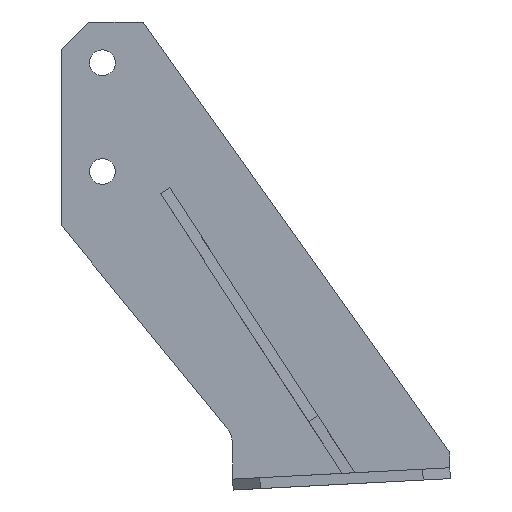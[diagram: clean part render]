
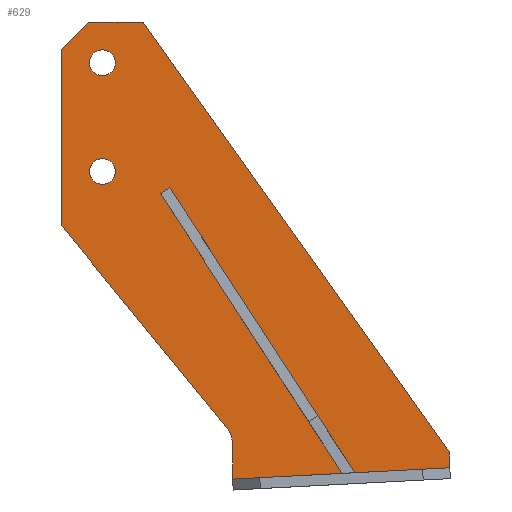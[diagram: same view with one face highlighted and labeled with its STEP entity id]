
A CAD part, front view. The second image highlights one B-rep face of the part: STEP entity #629.
In plain terms, the highlighted planar face has unit normal (0, -1, 0).
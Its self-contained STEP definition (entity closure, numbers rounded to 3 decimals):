
#114=FACE_BOUND('',#189,.T.);
#115=FACE_BOUND('',#190,.T.);
#130=PLANE('',#690);
#158=FACE_OUTER_BOUND('',#188,.T.);
#188=EDGE_LOOP('',(#513,#514,#515,#516,#517,#518,#519,#520,#521));
#189=EDGE_LOOP('',(#522));
#190=EDGE_LOOP('',(#523));
#219=LINE('',#884,#281);
#222=LINE('',#899,#284);
#225=LINE('',#905,#287);
#228=LINE('',#911,#290);
#231=LINE('',#917,#293);
#234=LINE('',#923,#296);
#237=LINE('',#929,#299);
#240=LINE('',#934,#302);
#281=VECTOR('',#731,10.);
#284=VECTOR('',#748,10.);
#287=VECTOR('',#753,10.);
#290=VECTOR('',#758,10.);
#293=VECTOR('',#763,10.);
#296=VECTOR('',#768,10.);
#299=VECTOR('',#773,10.);
#302=VECTOR('',#778,10.);
#340=CIRCLE('',#675,10.);
#341=CIRCLE('',#678,4.75);
#343=CIRCLE('',#681,4.75);
#351=VERTEX_POINT('',#874);
#352=VERTEX_POINT('',#876);
#354=VERTEX_POINT('',#882);
#355=VERTEX_POINT('',#886);
#357=VERTEX_POINT('',#892);
#359=VERTEX_POINT('',#898);
#361=VERTEX_POINT('',#904);
#363=VERTEX_POINT('',#910);
#365=VERTEX_POINT('',#916);
#367=VERTEX_POINT('',#922);
#369=VERTEX_POINT('',#928);
#399=EDGE_CURVE('',#351,#352,#340,.T.);
#403=EDGE_CURVE('',#354,#351,#219,.T.);
#404=EDGE_CURVE('',#355,#355,#341,.T.);
#407=EDGE_CURVE('',#357,#357,#343,.T.);
#410=EDGE_CURVE('',#352,#359,#222,.T.);
#413=EDGE_CURVE('',#359,#361,#225,.T.);
#416=EDGE_CURVE('',#361,#363,#228,.T.);
#419=EDGE_CURVE('',#363,#365,#231,.T.);
#422=EDGE_CURVE('',#365,#367,#234,.T.);
#425=EDGE_CURVE('',#367,#369,#237,.T.);
#428=EDGE_CURVE('',#369,#354,#240,.T.);
#513=ORIENTED_EDGE('',*,*,#403,.F.);
#514=ORIENTED_EDGE('',*,*,#428,.F.);
#515=ORIENTED_EDGE('',*,*,#425,.F.);
#516=ORIENTED_EDGE('',*,*,#422,.F.);
#517=ORIENTED_EDGE('',*,*,#419,.F.);
#518=ORIENTED_EDGE('',*,*,#416,.F.);
#519=ORIENTED_EDGE('',*,*,#413,.F.);
#520=ORIENTED_EDGE('',*,*,#410,.F.);
#521=ORIENTED_EDGE('',*,*,#399,.F.);
#522=ORIENTED_EDGE('',*,*,#404,.T.);
#523=ORIENTED_EDGE('',*,*,#407,.T.);
#629=ADVANCED_FACE('',(#158,#114,#115),#130,.T.);
#675=AXIS2_PLACEMENT_3D('',#877,#724,#725);
#678=AXIS2_PLACEMENT_3D('',#887,#734,#735);
#681=AXIS2_PLACEMENT_3D('',#893,#741,#742);
#690=AXIS2_PLACEMENT_3D('',#936,#780,#781);
#724=DIRECTION('center_axis',(0.,-1.,0.));
#725=DIRECTION('ref_axis',(0.942,0.,0.336));
#731=DIRECTION('',(0.,0.,1.));
#734=DIRECTION('center_axis',(0.,1.,0.));
#735=DIRECTION('ref_axis',(1.,0.,0.));
#741=DIRECTION('center_axis',(0.,1.,0.));
#742=DIRECTION('ref_axis',(1.,0.,0.));
#748=DIRECTION('',(-0.633,0.,0.774));
#753=DIRECTION('',(0.,0.,1.));
#758=DIRECTION('',(0.707,0.,0.707));
#763=DIRECTION('',(1.,0.,0.));
#768=DIRECTION('',(0.58,0.,-0.815));
#773=DIRECTION('',(0.,0.,-1.));
#778=DIRECTION('',(-0.999,0.,-0.052));
#780=DIRECTION('center_axis',(0.,-1.,0.));
#781=DIRECTION('ref_axis',(0.,0.,-1.));
#874=CARTESIAN_POINT('',(-5.89,0.,-61.566));
#876=CARTESIAN_POINT('',(-8.146,0.,-55.239));
#877=CARTESIAN_POINT('Origin',(-15.89,0.,-61.566));
#882=CARTESIAN_POINT('',(-5.89,0.,-74.187));
#884=CARTESIAN_POINT('',(-5.89,0.,-58.));
#886=CARTESIAN_POINT('',(-58.55,0.,39.));
#887=CARTESIAN_POINT('Origin',(-53.8,0.,39.));
#892=CARTESIAN_POINT('',(-58.55,0.,79.));
#893=CARTESIAN_POINT('Origin',(-53.8,0.,79.));
#898=CARTESIAN_POINT('',(-68.8,0.,19.));
#899=CARTESIAN_POINT('',(-68.8,0.,19.));
#904=CARTESIAN_POINT('',(-68.8,0.,84.));
#905=CARTESIAN_POINT('',(-68.8,0.,84.));
#910=CARTESIAN_POINT('',(-58.8,0.,94.));
#911=CARTESIAN_POINT('',(-58.8,0.,94.));
#916=CARTESIAN_POINT('',(-38.8,0.,94.));
#917=CARTESIAN_POINT('',(-38.8,0.,94.));
#922=CARTESIAN_POINT('',(74.,0.,-64.5));
#923=CARTESIAN_POINT('',(74.,0.,-64.5));
#928=CARTESIAN_POINT('',(74.,0.,-70.));
#929=CARTESIAN_POINT('',(74.,0.,-70.));
#934=CARTESIAN_POINT('',(-5.89,0.,-74.187));
#936=CARTESIAN_POINT('Origin',(2.6,0.,9.907));
